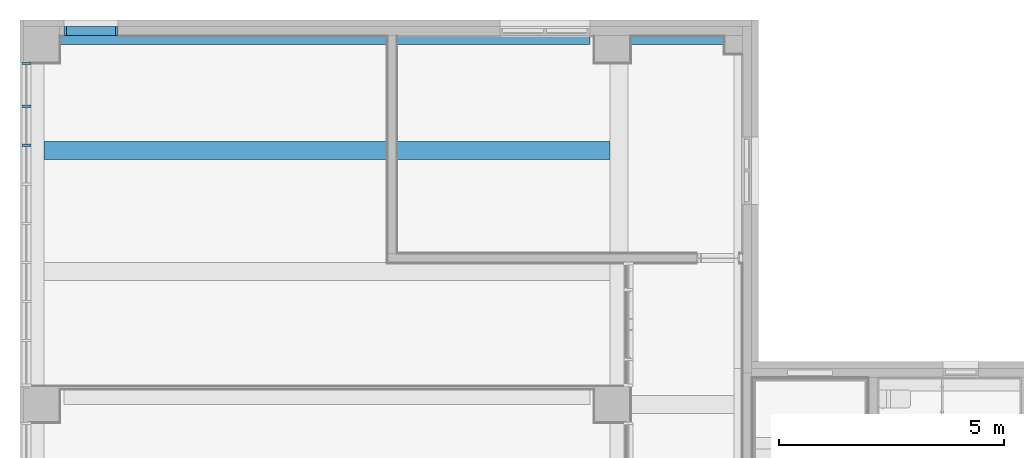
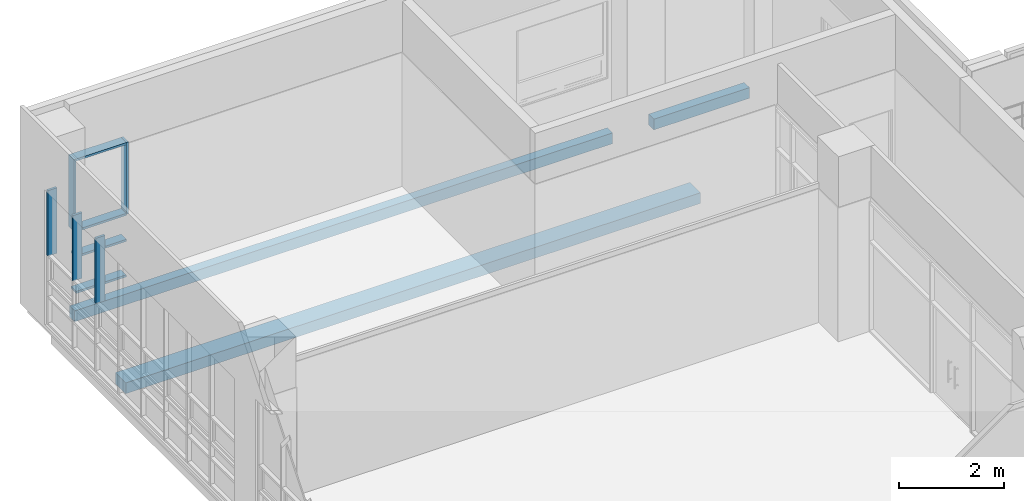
# One storey, part 11 of 74: 9 members, 3 beams, 2 elements without a shape of their own.
"""IFC2X3 building model written with IfcOpenShell, lengths in millimetres."""

from ifc_helpers import new_model, entity, si_unit, converted_unit, derived_unit, direction, frame, frame_2d, origin, origin_2d_with_axis, place, context, subcontext, project, spatial, rectangle, extrude, source, transform, mapped, material, type_object, type_shapes, element, aggregate, save


model = new_model("IFC2X3")

# Units and contexts
model_context = context("Model", 3, precision=0.01, world=origin(), true_north=direction((6.123031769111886e-17, 1.0)))
body_context = subcontext(model_context, "Body", "Model", "MODEL_VIEW")
ifc_project = project(units=[si_unit("LENGTHUNIT", "METRE", prefix="MILLI"), si_unit("AREAUNIT", "SQUARE_METRE"), si_unit("VOLUMEUNIT", "CUBIC_METRE"), converted_unit("PLANEANGLEUNIT", "DEGREE", entity("IfcRatioMeasure", 0.017453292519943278), si_unit("PLANEANGLEUNIT", "RADIAN"), dimensions=[0, 0, 0, 0, 0, 0, 0]), si_unit("MASSUNIT", "GRAM", prefix="KILO"), derived_unit("MASSDENSITYUNIT", [(si_unit("MASSUNIT", "GRAM", prefix="KILO"), 1), (si_unit("LENGTHUNIT", "METRE"), -3)]), derived_unit("MOMENTOFINERTIAUNIT", [(si_unit("LENGTHUNIT", "METRE"), 4)]), si_unit("TIMEUNIT", "SECOND"), si_unit("FREQUENCYUNIT", "HERTZ"), si_unit("THERMODYNAMICTEMPERATUREUNIT", "DEGREE_CELSIUS"), derived_unit("THERMALTRANSMITTANCEUNIT", [(si_unit("MASSUNIT", "GRAM", prefix="KILO"), 1), (si_unit("THERMODYNAMICTEMPERATUREUNIT", "KELVIN"), -1), (si_unit("TIMEUNIT", "SECOND"), -3)]), derived_unit("VOLUMETRICFLOWRATEUNIT", [(si_unit("LENGTHUNIT", "METRE"), 3), (si_unit("TIMEUNIT", "SECOND"), -1)]), derived_unit("MASSFLOWRATEUNIT", [(si_unit("MASSUNIT", "GRAM", prefix="KILO"), 1), (si_unit("TIMEUNIT", "SECOND"), -1)]), derived_unit("ROTATIONALFREQUENCYUNIT", [(si_unit("TIMEUNIT", "SECOND"), -1)]), si_unit("ELECTRICCURRENTUNIT", "AMPERE"), si_unit("ELECTRICVOLTAGEUNIT", "VOLT"), si_unit("POWERUNIT", "WATT"), si_unit("FORCEUNIT", "NEWTON", prefix="KILO"), si_unit("ILLUMINANCEUNIT", "LUX"), si_unit("LUMINOUSFLUXUNIT", "LUMEN"), si_unit("LUMINOUSINTENSITYUNIT", "CANDELA"), derived_unit("USERDEFINED", [(si_unit("MASSUNIT", "GRAM", prefix="KILO"), -1), (si_unit("LENGTHUNIT", "METRE"), -2), (si_unit("TIMEUNIT", "SECOND"), 3), (si_unit("LUMINOUSFLUXUNIT", "LUMEN"), 1)]), derived_unit("SOUNDPOWERUNIT", [(si_unit("MASSUNIT", "GRAM", prefix="KILO"), 1), (si_unit("LENGTHUNIT", "METRE"), 2), (si_unit("TIMEUNIT", "SECOND"), -3)]), derived_unit("SOUNDPRESSUREUNIT", [(si_unit("MASSUNIT", "GRAM", prefix="KILO"), 1), (si_unit("LENGTHUNIT", "METRE"), -1), (si_unit("TIMEUNIT", "SECOND"), -2)]), derived_unit("LINEARVELOCITYUNIT", [(si_unit("LENGTHUNIT", "METRE"), 1), (si_unit("TIMEUNIT", "SECOND"), -1)]), si_unit("PRESSUREUNIT", "PASCAL"), derived_unit("USERDEFINED", [(si_unit("LENGTHUNIT", "METRE"), -2), (si_unit("MASSUNIT", "GRAM", prefix="KILO"), 1), (si_unit("TIMEUNIT", "SECOND"), -2)]), derived_unit("LINEARFORCEUNIT", [(si_unit("MASSUNIT", "GRAM", prefix="KILO"), 1), (si_unit("LENGTHUNIT", "METRE"), 1), (si_unit("TIMEUNIT", "SECOND"), -2), (si_unit("LENGTHUNIT", "METRE"), -1)]), derived_unit("PLANARFORCEUNIT", [(si_unit("MASSUNIT", "GRAM", prefix="KILO"), 1), (si_unit("LENGTHUNIT", "METRE"), 1), (si_unit("TIMEUNIT", "SECOND"), -2), (si_unit("LENGTHUNIT", "METRE"), -2)])], contexts=[model_context])

# Site, building, storey
site_placement = place(None, frame((-14167.972527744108, -657.2125860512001, 0.0)))
site = spatial("IfcSite", under=ifc_project, at=site_placement, Name="Default", CompositionType="ELEMENT")
building_placement = place(site_placement, origin())
building = spatial("IfcBuilding", under=site, at=building_placement, Name="Sample Building", CompositionType="ELEMENT")
storey_placement = place(building_placement, frame((0.0, 0.0, 4800.0)))
storey = spatial("IfcBuildingStorey", under=building, at=storey_placement, Name="지상 2층", CompositionType="ELEMENT", Elevation=4800.000000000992)

# Curtain wall, members
curtain_wall_type = type_object("IfcCurtainWallType", Name="커튼월:CW112-스테인리스 스틸 커튼월", PredefinedType="NOTDEFINED")
curtain_wall_1_placement = place(storey_placement, frame((0.0, 0.0, -4800.0)))
curtain_wall_1 = element("IfcCurtainWall", 1, at=curtain_wall_1_placement, inside=storey, type_object=curtain_wall_type, Name="커튼월:CW112-스테인리스 스틸 커튼월", ObjectType="커튼월:CW112-스테인리스 스틸 커튼월")
ifc_material_1 = material(Name="<Unnamed>")
member_type_1 = type_object("IfcMemberType", Name="직사각형 멀리언:CW200-직사각형 멀리언 50x200mm", PredefinedType="MULLION", material=ifc_material_1)
shared_shape_1 = source(origin(), body_context, "Body", "SweptSolid", [
    extrude(rectangle(XDim=200.0, YDim=50.0, at=origin_2d_with_axis()), frame((-25.0, 0.0, -1100.0), z_axis=(0.0, 0.0, 1.0), x_axis=(0.0, -1.0, 0.0)), (0.0, 0.0, 1.0), 1100.0),
])
type_shapes(member_type_1, [shared_shape_1])
member_1_placement = place(curtain_wall_1_placement, frame((16117.998485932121, 35657.21229514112, 8000.0), z_axis=(1.0, 0.0, 0.0), x_axis=(0.0, 0.0, 1.0)))
member_1 = element("IfcMember", 2, at=member_1_placement, type_object=member_type_1, material=ifc_material_1, Name="직사각형 멀리언:CW200-직사각형 멀리언 50x200mm", ObjectType="직사각형 멀리언:CW200-직사각형 멀리언 50x200mm", context=body_context, shape_type="MappedRepresentation", body=[
    mapped(shared_shape_1, transform((0.0, 0.0, 0.0), scale=1.0)),
])
member_type_2 = type_object("IfcMemberType", Name="직사각형 멀리언:CW200-직사각형 멀리언 50x200mm", PredefinedType="MULLION", material=ifc_material_1)
shared_shape_2 = source(origin(), body_context, "Body", "SweptSolid", [
    extrude(rectangle(XDim=200.0, YDim=50.0, at=origin_2d_with_axis()), frame((-25.0, 0.0, -1100.0), z_axis=(0.0, 0.0, 1.0), x_axis=(0.0, -1.0, 0.0)), (0.0, 0.0, 1.0), 1100.0),
])
type_shapes(member_type_2, [shared_shape_2])
member_2_placement = place(curtain_wall_1_placement, frame((15017.998485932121, 35657.21229514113, 4880.0), z_axis=(-1.0, 0.0, 0.0), x_axis=(0.0, 0.0, -1.0)))
member_2 = element("IfcMember", 3, at=member_2_placement, type_object=member_type_2, material=ifc_material_1, Name="직사각형 멀리언:CW200-직사각형 멀리언 50x200mm", ObjectType="직사각형 멀리언:CW200-직사각형 멀리언 50x200mm", context=body_context, shape_type="MappedRepresentation", body=[
    mapped(shared_shape_2, transform((0.0, 0.0, 0.0), scale=1.0)),
])
member_type_3 = type_object("IfcMemberType", Name="직사각형 멀리언:CW200-직사각형 멀리언 50x200mm", PredefinedType="MULLION", material=ifc_material_1)
shared_shape_3 = source(origin(), body_context, "Body", "SweptSolid", [
    extrude(rectangle(XDim=200.0, YDim=50.0, at=origin_2d_with_axis()), frame((-25.0, 0.0, -1670.0), z_axis=(0.0, 0.0, 1.0), x_axis=(0.0, -1.0, 0.0)), (0.0, 0.0, 1.0), 1670.0000000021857),
])
type_shapes(member_type_3, [shared_shape_3])
member_3_placement = place(curtain_wall_1_placement, frame((14967.998485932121, 35657.21229514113, 8000.0), z_axis=(0.0, 0.0, 1.0), x_axis=(-1.0, 0.0, 0.0)))
member_3 = element("IfcMember", 4, at=member_3_placement, type_object=member_type_3, material=ifc_material_1, Name="직사각형 멀리언:CW200-직사각형 멀리언 50x200mm", ObjectType="직사각형 멀리언:CW200-직사각형 멀리언 50x200mm", context=body_context, shape_type="MappedRepresentation", body=[
    mapped(shared_shape_3, transform((0.0, 0.0, 0.0), scale=1.0)),
])
member_type_4 = type_object("IfcMemberType", Name="직사각형 멀리언:CW200-직사각형 멀리언 50x200mm", PredefinedType="MULLION", material=ifc_material_1)
shared_shape_4 = source(origin(), body_context, "Body", "SweptSolid", [
    extrude(rectangle(XDim=200.0, YDim=50.0, at=origin_2d_with_axis()), frame((-25.0, 0.0, -1670.0), z_axis=(0.0, 0.0, 1.0), x_axis=(0.0, -1.0, 0.0)), (0.0, 0.0, 1.0), 1670.0000000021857),
])
type_shapes(member_type_4, [shared_shape_4])
member_4_placement = place(curtain_wall_1_placement, frame((16167.998485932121, 35657.21229514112, 6330.0), z_axis=(0.0, 0.0, -1.0), x_axis=(1.0, 0.0, 0.0)))
member_4 = element("IfcMember", 5, at=member_4_placement, type_object=member_type_4, material=ifc_material_1, Name="직사각형 멀리언:CW200-직사각형 멀리언 50x200mm", ObjectType="직사각형 멀리언:CW200-직사각형 멀리언 50x200mm", context=body_context, shape_type="MappedRepresentation", body=[
    mapped(shared_shape_4, transform((0.0, 0.0, 0.0), scale=1.0)),
])
member_type_5 = type_object("IfcMemberType", Name="직사각형 멀리언:CW200-직사각형 멀리언 50x200mm", PredefinedType="MULLION", material=ifc_material_1)
shared_shape_5 = source(origin(), body_context, "Body", "SweptSolid", [
    extrude(rectangle(XDim=200.0, YDim=50.0, at=origin_2d_with_axis()), frame((0.0, 0.0, -1100.0), z_axis=(0.0, 0.0, 1.0), x_axis=(0.0, -1.0, 0.0)), (0.0, 0.0, 1.0), 1100.0),
])
type_shapes(member_type_5, [shared_shape_5])
member_5_placement = place(curtain_wall_1_placement, frame((16117.998485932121, 35657.21229514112, 6330.0), z_axis=(1.0, 0.0, 0.0), x_axis=(0.0, 0.0, 1.0)))
member_5 = element("IfcMember", 6, at=member_5_placement, type_object=member_type_5, material=ifc_material_1, Name="직사각형 멀리언:CW200-직사각형 멀리언 50x200mm", ObjectType="직사각형 멀리언:CW200-직사각형 멀리언 50x200mm", context=body_context, shape_type="MappedRepresentation", body=[
    mapped(shared_shape_5, transform((0.0, 0.0, 0.0), scale=1.0)),
])
member_6_placement = place(curtain_wall_1_placement, frame((16117.998485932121, 35657.21229514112, 5730.0), z_axis=(1.0, 0.0, 0.0), x_axis=(0.0, 0.0, 1.0)))
member_6 = element("IfcMember", 7, at=member_6_placement, type_object=member_type_5, material=ifc_material_1, Name="직사각형 멀리언:CW200-직사각형 멀리언 50x200mm", ObjectType="직사각형 멀리언:CW200-직사각형 멀리언 50x200mm", context=body_context, shape_type="MappedRepresentation", body=[
    mapped(shared_shape_5, transform((0.0, 0.0, 0.0), scale=1.0)),
])
aggregate(curtain_wall_1, [member_1, member_2, member_3, member_4, member_5, member_6])

curtain_wall_2_placement = place(storey_placement, frame((0.0, 0.0, -4800.0)))
curtain_wall_2 = element("IfcCurtainWall", 8, at=curtain_wall_2_placement, inside=storey, type_object=curtain_wall_type, Name="커튼월:CW112-스테인리스 스틸 커튼월", ObjectType="커튼월:CW112-스테인리스 스틸 커튼월")
member_type_6 = type_object("IfcMemberType", Name="직사각형 멀리언:CW200-직사각형 멀리언 50x200mm", PredefinedType="MULLION", material=ifc_material_1)
shared_shape_6 = source(origin(), body_context, "Body", "SweptSolid", [
    extrude(rectangle(XDim=200.0, YDim=50.0, at=origin_2d_with_axis()), frame((-25.0, 0.0, -1520.0), z_axis=(0.0, 0.0, 1.0), x_axis=(0.0, -1.0, 0.0)), (0.0, 0.0, 1.0), 1520.000000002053),
])
type_shapes(member_type_6, [shared_shape_6])
member_7_placement = place(curtain_wall_2_placement, frame((14130.455105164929, 34967.21227524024, 8000.0), z_axis=(0.0, 0.0, 1.0), x_axis=(0.0, 1.0, 0.0)))
member_7 = element("IfcMember", 9, at=member_7_placement, type_object=member_type_6, material=ifc_material_1, Name="직사각형 멀리언:CW200-직사각형 멀리언 50x200mm", ObjectType="직사각형 멀리언:CW200-직사각형 멀리언 50x200mm", context=body_context, shape_type="MappedRepresentation", body=[
    mapped(shared_shape_6, transform((0.0, 0.0, 0.0), scale=1.0)),
])
member_type_7 = type_object("IfcMemberType", Name="직사각형 멀리언:CW200-직사각형 멀리언 50x200mm", PredefinedType="MULLION", material=ifc_material_1)
shared_shape_7 = source(origin(), body_context, "Body", "SweptSolid", [
    extrude(rectangle(XDim=200.0, YDim=50.0, at=origin_2d_with_axis()), frame((0.0, 0.0, -1520.0), z_axis=(0.0, 0.0, 1.0), x_axis=(0.0, -1.0, 0.0)), (0.0, 0.0, 1.0), 1520.000000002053),
])
type_shapes(member_type_7, [shared_shape_7])
member_8_placement = place(curtain_wall_2_placement, frame((14130.455105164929, 33988.46227524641, 6480.0), z_axis=(0.0, 0.0, -1.0), x_axis=(0.0, -1.0, 0.0)))
member_8 = element("IfcMember", 10, at=member_8_placement, type_object=member_type_7, material=ifc_material_1, Name="직사각형 멀리언:CW200-직사각형 멀리언 50x200mm", ObjectType="직사각형 멀리언:CW200-직사각형 멀리언 50x200mm", context=body_context, shape_type="MappedRepresentation", body=[
    mapped(shared_shape_7, transform((0.0, 0.0, 0.0), scale=1.0)),
])
member_9_placement = place(curtain_wall_2_placement, frame((14130.455105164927, 33119.71227524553, 6480.0), z_axis=(0.0, 0.0, -1.0), x_axis=(0.0, -1.0, 0.0)))
member_9 = element("IfcMember", 11, at=member_9_placement, type_object=member_type_7, material=ifc_material_1, Name="직사각형 멀리언:CW200-직사각형 멀리언 50x200mm", ObjectType="직사각형 멀리언:CW200-직사각형 멀리언 50x200mm", context=body_context, shape_type="MappedRepresentation", body=[
    mapped(shared_shape_7, transform((0.0, 0.0, 0.0), scale=1.0)),
])
aggregate(curtain_wall_2, [member_7, member_8, member_9])

# Beams
ifc_material_2 = material(Name="KBIMS-콘크리트")
beam_type_1 = type_object("IfcBeamType", Name="BM111-철근콘크리트구조 보:BM110-철근 콘크리트구조 보_400 x 400_2-10G7", PredefinedType="NOTDEFINED")
beam_1_placement = place(storey_placement, frame((14867.981136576, 35557.21260419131, 0.0)))
element("IfcBeam", 12, at=beam_1_placement, inside=storey, type_object=beam_type_1, material=ifc_material_2, Name="BM111-철근콘크리트구조 보:BM110-철근 콘크리트구조 보_400 x 400_2-10G7", ObjectType="BM111-철근콘크리트구조 보:BM110-철근 콘크리트구조 보_400 x 400_2-10G7", context=body_context, shape_type="SweptSolid", body=[
    extrude(rectangle(XDim=250.00000000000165, YDim=199.99969094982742, at=frame_2d((0.0, 4.334310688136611e-12), x_axis=(1.0, 0.0))), frame((0.0, -100.00015452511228, -275.0), z_axis=(1.0, 0.0, 0.0), x_axis=(0.0, 0.0, -1.0)), (0.0, 0.0, 1.0), 11799.974005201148),
])
beam_type_2 = type_object("IfcBeamType", Name="BM111-철근콘크리트구조 보:BM110-철근 콘크리트구조 보_400 x 400_2-10G8", PredefinedType="NOTDEFINED")
beam_2_placement = place(storey_placement, frame((29667.93775580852, 35557.21260419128, 0.0), z_axis=(0.0, 0.0, 1.0), x_axis=(-1.0, 0.0, 0.0)))
element("IfcBeam", 13, at=beam_2_placement, inside=storey, type_object=beam_type_2, material=ifc_material_2, Name="BM111-철근콘크리트구조 보:BM110-철근 콘크리트구조 보_400 x 400_2-10G8", ObjectType="BM111-철근콘크리트구조 보:BM110-철근 콘크리트구조 보_400 x 400_2-10G8", context=body_context, shape_type="SweptSolid", body=[
    extrude(rectangle(XDim=250.00000000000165, YDim=199.99969094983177, at=frame_2d((0.0, 4.32720526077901e-12), x_axis=(1.0, 0.0))), frame((0.0, 100.00015452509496, -275.0), z_axis=(1.0, 0.0, 0.0), x_axis=(0.0, 0.0, -1.0)), (0.0, 0.0, 1.0), 2099.982614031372),
])
beam_type_3 = type_object("IfcBeamType", Name="BM111-철근콘크리트구조 보:BM110-철근 콘크리트구조 보_400 x 400_2-10B3", PredefinedType="NOTDEFINED")
beam_3_placement = place(storey_placement, frame((14317.955221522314, 33007.21247892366, 0.0)))
element("IfcBeam", 14, at=beam_3_placement, inside=storey, type_object=beam_type_3, material=ifc_material_2, Name="BM111-철근콘크리트구조 보:BM110-철근 콘크리트구조 보_400 x 400_2-10B3", ObjectType="BM111-철근콘크리트구조 보:BM110-철근 콘크리트구조 보_400 x 400_2-10B3", context=body_context, shape_type="SweptSolid", body=[
    extrude(rectangle(XDim=250.00000000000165, YDim=400.0000000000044, at=origin_2d_with_axis()), frame((200.0, 0.0, -275.0), z_axis=(1.0, 0.0, 0.0), x_axis=(0.0, 0.0, -1.0)), (0.0, 0.0, 1.0), 12600.10657854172),
])

save(model, "model.ifc")
